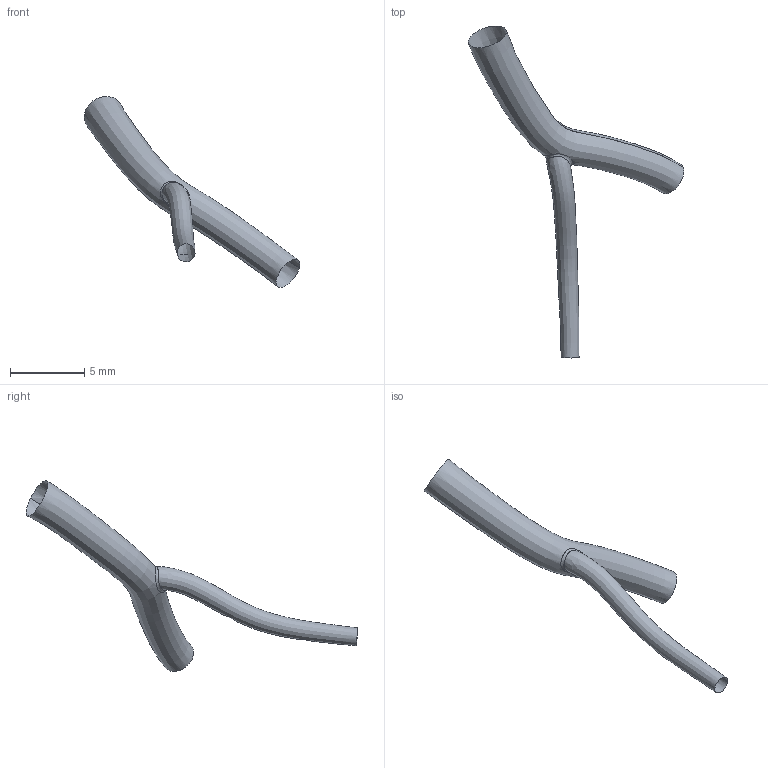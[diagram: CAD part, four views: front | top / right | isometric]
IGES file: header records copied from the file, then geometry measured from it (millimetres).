
Global section: file name: C:\Documents and Settings\Administrator\Desktop\FDA-Pig\Domestic LCA\Pig_000005\diag.es.igs; native system: Rhinoceros ( May 19 2006 ); preprocessor: Trout Lake IGES 012 May 19 2006; date: 111205.183315; units: centimetre
Bounding box: 14.57 x 22.42 x 12.9 mm (x, y, z)
Surface area: 212.7 mm2 (no closed solid volume)
Topology: 0 solids, 0 shells, 3 faces, 34 edges, 31 vertices
Faces by surface type: bspline 3
